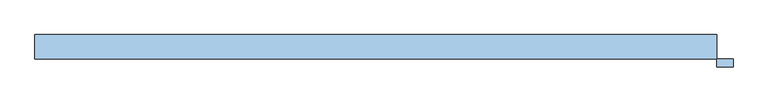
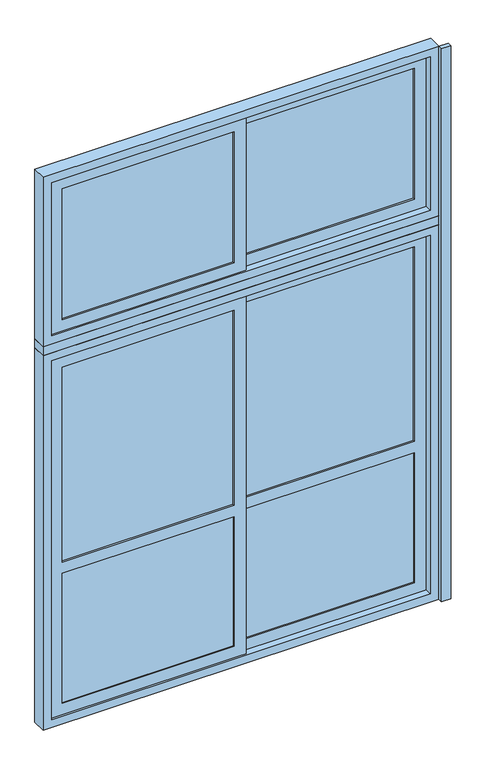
"""IFC4 building model written with IfcOpenShell, lengths in millimetres: window geometry, A7 Ventana_Corrediza_PC_2 hojas : A7.2 Ventana_Corrediza_PC_2 hojas 210x310."""

from ifc_helpers import new_model, si_unit, frame, origin, origin_with_axes, place, context, project, spatial, polyline, outline, extrude, source, transform, mapped, element, save


def window_db7bb84f(model_context):
    return source(origin(), model_context, "Body", "SweptSolid", [
        extrude(outline(polyline([(-31.5, 28.0), (-942.0, 28.0), (-942.0, 44.0), (-31.5, 44.0), (-31.5, 28.0)])), frame((0.0, 0.0, 108.0), z_axis=(0.0, 0.0, 1.0), x_axis=(1.0, 0.0, 0.0)), (0.0, 0.0, 1.0), 728.0),
        extrude(outline(polyline([(942.0, 56.0), (31.5, 56.0), (31.5, 72.0), (942.0, 72.0), (942.0, 56.0)])), frame((0.0, 0.0, 108.0), z_axis=(0.0, 0.0, 1.0), x_axis=(1.0, 0.0, 0.0)), (0.0, 0.0, 1.0), 728.0),
        extrude(outline(polyline([(-31.5, 31.5769719), (-942.0, 31.5769719), (-942.0, 40.4230281), (-31.5, 40.4230281), (-31.5, 31.5769719)])), frame((0.0, 0.0, 2258.0), z_axis=(0.0, 0.0, 1.0), x_axis=(1.0, 0.0, 0.0)), (0.0, 0.0, 1.0), 734.0),
        extrude(outline(polyline([(-31.5, 31.5769719), (-942.0, 31.5769719), (-942.0, 40.4230281), (-31.5, 40.4230281), (-31.5, 31.5769719)])), frame((0.0, 0.0, 900.0), z_axis=(0.0, 0.0, 1.0), x_axis=(1.0, 0.0, 0.0)), (0.0, 0.0, 1.0), 1092.0),
        extrude(outline(polyline([(942.0, 59.5769719), (31.5, 59.5769719), (31.5, 68.4230281), (942.0, 68.4230281), (942.0, 59.5769719)])), frame((0.0, 0.0, 2258.0), z_axis=(0.0, 0.0, 1.0), x_axis=(1.0, 0.0, 0.0)), (0.0, 0.0, 1.0), 734.0),
        extrude(outline(polyline([(942.0, 59.5769719), (31.5, 59.5769719), (31.5, 68.4230281), (942.0, 68.4230281), (942.0, 59.5769719)])), frame((0.0, 0.0, 900.0), z_axis=(0.0, 0.0, 1.0), x_axis=(1.0, 0.0, 0.0)), (0.0, 0.0, 1.0), 1092.0),
        extrude(outline(polyline([(45.0, -1005.0), (45.0, 31.5), (2055.0, 31.5), (2055.0, -1005.0), (45.0, -1005.0)]), holes=[polyline([(900.0, -942.0), (1992.0, -942.0), (1992.0, -31.5), (900.0, -31.5), (900.0, -942.0)]), polyline([(108.0, -942.0), (836.0, -942.0), (836.0, -31.5), (108.0, -31.5), (108.0, -942.0)])]), frame((0.0, 22.0, 0.0), z_axis=(0.0, 1.0, 0.0), x_axis=(0.0, 0.0, 1.0)), (0.0, 0.0, 1.0), 28.0),
        extrude(outline(polyline([(3055.0, -1005.0), (2195.0, -1005.0), (2195.0, 31.5), (3055.0, 31.5), (3055.0, -1005.0)]), holes=[polyline([(2258.0, -942.0), (2992.0, -942.0), (2992.0, -31.5), (2258.0, -31.5), (2258.0, -942.0)])]), frame((0.0, 22.0, 0.0), z_axis=(0.0, 1.0, 0.0), x_axis=(0.0, 0.0, 1.0)), (0.0, 0.0, 1.0), 28.0),
        extrude(outline(polyline([(2055.0, 1005.0), (2055.0, -31.5), (45.0, -31.5), (45.0, 1005.0), (2055.0, 1005.0)]), holes=[polyline([(1992.0, 31.5), (1992.0, 942.0), (900.0, 942.0), (900.0, 31.5), (1992.0, 31.5)]), polyline([(836.0, 31.5), (836.0, 942.0), (108.0, 942.0), (108.0, 31.5), (836.0, 31.5)])]), frame((0.0, 50.0, 0.0), z_axis=(0.0, 1.0, 0.0), x_axis=(0.0, 0.0, 1.0)), (0.0, 0.0, 1.0), 28.0),
        extrude(outline(polyline([(2195.0, -31.5), (2195.0, 1005.0), (3055.0, 1005.0), (3055.0, -31.5), (2195.0, -31.5)]), holes=[polyline([(2992.0, 31.5), (2992.0, 942.0), (2258.0, 942.0), (2258.0, 31.5), (2992.0, 31.5)])]), frame((0.0, 50.0, 0.0), z_axis=(0.0, 1.0, 0.0), x_axis=(0.0, 0.0, 1.0)), (0.0, 0.0, 1.0), 28.0),
        extrude(outline(polyline([(2100.0, -1050.0), (0.0, -1050.0), (0.0, 1050.0), (2100.0, 1050.0), (2100.0, -1050.0)]), holes=[polyline([(2055.0, -1005.0), (2055.0, 1005.0), (45.0, 1005.0), (45.0, -1005.0), (2055.0, -1005.0)])]), frame((0.0, 12.5, 0.0), z_axis=(0.0, 1.0, 0.0), x_axis=(0.0, 0.0, 1.0)), (0.0, 0.0, 1.0), 75.0),
        extrude(outline(polyline([(3100.0, -1050.0), (2150.0, -1050.0), (2150.0, 1050.0), (3100.0, 1050.0), (3100.0, -1050.0)]), holes=[polyline([(3055.0, -1005.0), (3055.0, 1005.0), (2195.0, 1005.0), (2195.0, -1005.0), (3055.0, -1005.0)])]), frame((0.0, 12.5, 0.0), z_axis=(0.0, 1.0, 0.0), x_axis=(0.0, 0.0, 1.0)), (0.0, 0.0, 1.0), 75.0),
        extrude(outline(polyline([(1050.0, 12.5), (-1050.0, 12.5), (-1050.0, 87.5), (1050.0, 87.5), (1050.0, 12.5)])), frame((0.0, 0.0, 2100.0), z_axis=(0.0, 0.0, 1.0), x_axis=(1.0, 0.0, 0.0)), (0.0, 0.0, 1.0), 50.0),
        extrude(outline(polyline([(1100.0, -12.5), (1050.0, -12.5), (1050.0, 12.5), (1100.0, 12.5), (1100.0, -12.5)])), origin_with_axes(), (0.0, 0.0, 1.0), 3100.0),
    ])


if __name__ == "__main__":
    model = new_model("IFC4")
    model_context = context("Model", 3, world=origin())
    ifc_project = project(units=[si_unit("LENGTHUNIT", "METRE", prefix="MILLI")], contexts=[model_context])
    site = spatial("IfcSite", under=ifc_project)
    building = spatial("IfcBuilding", under=site)
    placement = place(None, origin())
    window_shape = window_db7bb84f(model_context)
    element("IfcWindow", 1, ObjectType="A7 Ventana_Corrediza_PC_2 hojas : A7.2 Ventana_Corrediza_PC_2 hojas 210x310", at=placement, inside=building, context=model_context, shape_type="MappedRepresentation", body=[
        mapped(window_shape, transform((0.0, 0.0, 0.0), x_axis=(1.0, 0.0, 0.0), y_axis=(0.0, 1.0, 0.0), z_axis=(0.0, 0.0, 1.0))),
    ])
    save(model, "model.ifc")
